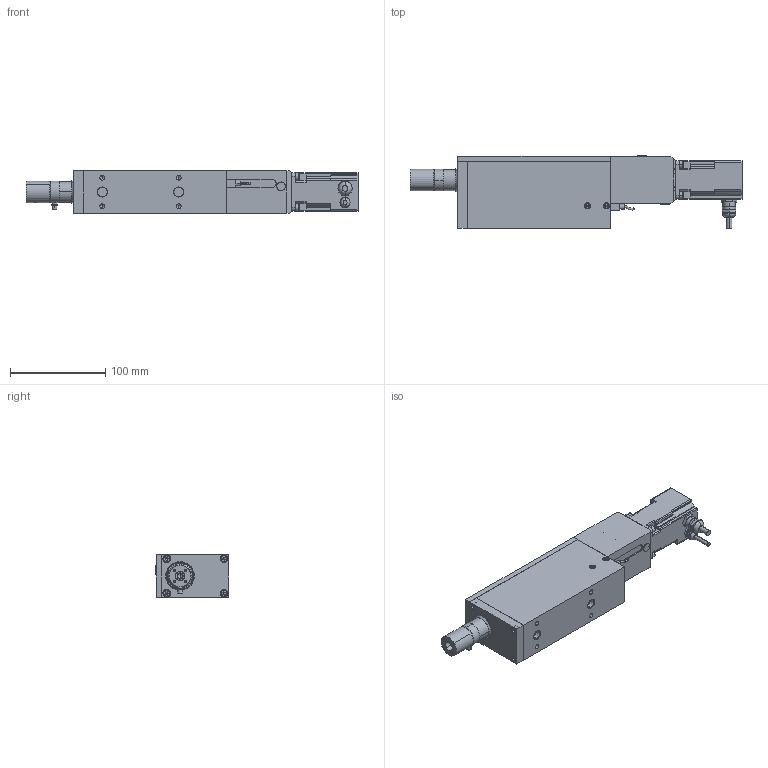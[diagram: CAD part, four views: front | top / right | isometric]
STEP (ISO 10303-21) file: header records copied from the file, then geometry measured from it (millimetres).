
FILE_DESCRIPTION (( 'STEP AP203' ), '1' );
FILE_NAME ('PR5IP002-006-025NXX.STEP', '2016-01-27T10:31:27', ( 'Holtz' ), ( '' ), 'SwSTEP 2.0', 'SolidWorks 2013', '' );
FILE_SCHEMA (( 'CONFIG_CONTROL_DESIGN' ));
Length unit declared in the file: millimetre
Products named in the file (1): PR5IP002-006-025NXX
Bounding box: 347.9 x 77 x 45 mm (x, y, z)
Volume: 663368.1 mm3; surface area: 164017.2 mm2
Topology: 27 solids, 27 shells, 1034 faces, 2466 edges, 1475 vertices
Faces by surface type: plane 427, cylinder 388, cone 175, torus 42, bspline 2
Entity records: 30319 total; most frequent: CARTESIAN_POINT 6080, DIRECTION 5390, ORIENTED_EDGE 4696, EDGE_CURVE 2348, AXIS2_PLACEMENT_3D 2061, VERTEX_POINT 1475, LINE 1268, VECTOR 1268
